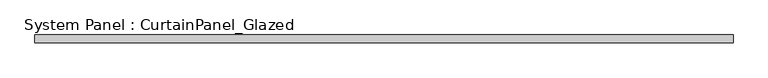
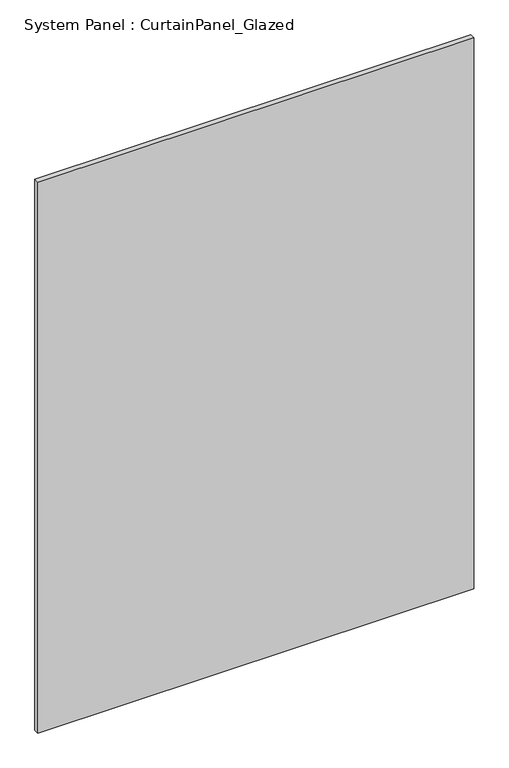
"""IFC4 building model written with IfcOpenShell, lengths in millimetres: plate geometry, System Panel : CurtainPanel_Glazed."""

from ifc_helpers import new_model, si_unit, origin, origin_with_axes, place, context, project, spatial, polyline, outline, extrude, source, transform, mapped, element, save


def system_panel_curtainpanel_glazed_21ea604a(model_context):
    return source(origin(), model_context, "Body", "SweptSolid", [
        extrude(outline(polyline([(1113.6000001, -12.5), (-1113.6000001, -12.5), (-1113.6000001, 12.5), (1113.6000001, 12.5), (1113.6000001, -12.5)])), origin_with_axes(), (0.0, 0.0, 1.0), 2975.0),
    ])


if __name__ == "__main__":
    model = new_model("IFC4")
    model_context = context("Model", 3, world=origin())
    ifc_project = project(units=[si_unit("LENGTHUNIT", "METRE", prefix="MILLI")], contexts=[model_context])
    site = spatial("IfcSite", under=ifc_project)
    building = spatial("IfcBuilding", under=site)
    placement = place(None, origin())
    system_panel_curtainpanel_glazed_shape = system_panel_curtainpanel_glazed_21ea604a(model_context)
    element("IfcPlate", 1, ObjectType="System Panel : CurtainPanel_Glazed", at=placement, inside=building, context=model_context, shape_type="MappedRepresentation", body=[
        mapped(system_panel_curtainpanel_glazed_shape, transform((0.0, 0.0, 0.0), x_axis=(1.0, 0.0, 0.0), y_axis=(0.0, 1.0, 0.0), z_axis=(0.0, 0.0, 1.0))),
    ])
    save(model, "model.ifc")
